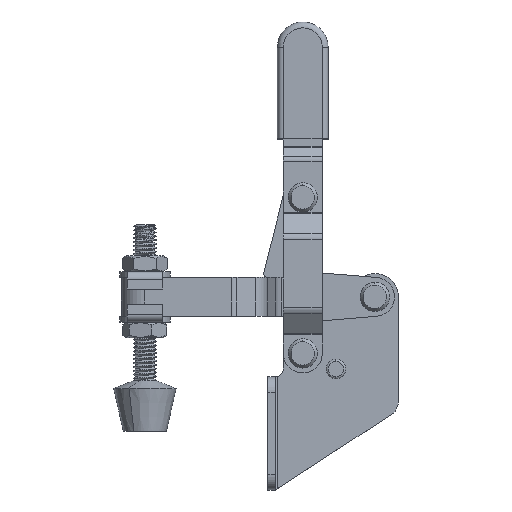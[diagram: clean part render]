
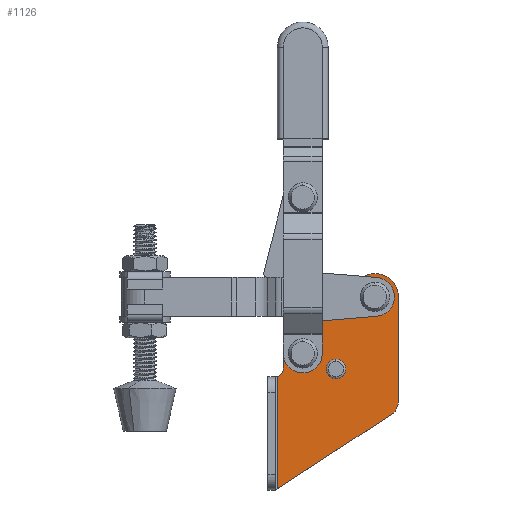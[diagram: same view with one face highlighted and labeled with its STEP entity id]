
A CAD part, top view. The second image highlights one B-rep face of the part: STEP entity #1126.
In plain terms, the highlighted planar face has unit normal (0, 0, 1) as drawn and (0, 0, -1) by its records, which use the part's own axes.
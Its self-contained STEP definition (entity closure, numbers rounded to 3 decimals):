
#263 = DIRECTION ( 'NONE',  ( 0., 0., 1. ) ) ;
#536 = DIRECTION ( 'NONE',  ( -1., 0., 0. ) ) ;
#570 = ORIENTED_EDGE ( 'NONE', *, *, #10326, .T. ) ;
#840 = ORIENTED_EDGE ( 'NONE', *, *, #10085, .F. ) ;
#868 = CARTESIAN_POINT ( 'NONE',  ( -4., -7., 0. ) ) ;
#908 = ORIENTED_EDGE ( 'NONE', *, *, #5860, .T. ) ;
#918 = DIRECTION ( 'NONE',  ( 1., 0., 0. ) ) ;
#946 = DIRECTION ( 'NONE',  ( 1., 0., 0. ) ) ;
#1119 = DIRECTION ( 'NONE',  ( 0., 0., -1. ) ) ;
#1126 = ADVANCED_FACE ( 'NONE', ( #6859, #11124, #14430, #14880 ), #8640, .F. ) ;
#1219 = AXIS2_PLACEMENT_3D ( 'NONE', #18072, #9458, #946 ) ;
#1450 = VECTOR ( 'NONE', #14480, 1000. ) ;
#1459 = CIRCLE ( 'NONE', #1852, 2.5 ) ;
#1476 = DIRECTION ( 'NONE',  ( -1., 0., 0. ) ) ;
#1503 = DIRECTION ( 'NONE',  ( -1., 0., 0. ) ) ;
#1533 = CARTESIAN_POINT ( 'NONE',  ( -14.5, 24.5, 0. ) ) ;
#1618 = CARTESIAN_POINT ( 'NONE',  ( -12.331, 24.5, 0. ) ) ;
#1648 = EDGE_CURVE ( 'NONE', #9441, #1722, #5750, .T. ) ;
#1702 = CARTESIAN_POINT ( 'NONE',  ( -12.331, 20.5, 0. ) ) ;
#1722 = VERTEX_POINT ( 'NONE', #4468 ) ;
#1852 = AXIS2_PLACEMENT_3D ( 'NONE', #18045, #9431, #918 ) ;
#2109 = ORIENTED_EDGE ( 'NONE', *, *, #4340, .F. ) ;
#2129 = LINE ( 'NONE', #11746, #13048 ) ;
#2434 = AXIS2_PLACEMENT_3D ( 'NONE', #4669, #14647, #6113 ) ;
#2620 = VERTEX_POINT ( 'NONE', #12017 ) ;
#2663 = EDGE_CURVE ( 'NONE', #5344, #14226, #2129, .T. ) ;
#2715 = LINE ( 'NONE', #2898, #13648 ) ;
#2825 = EDGE_CURVE ( 'NONE', #5955, #5344, #11299, .T. ) ;
#2898 = CARTESIAN_POINT ( 'NONE',  ( 14.5, -6.5, 0. ) ) ;
#2899 = AXIS2_PLACEMENT_3D ( 'NONE', #7636, #17667, #9064 ) ;
#2916 = AXIS2_PLACEMENT_3D ( 'NONE', #10121, #8449, #8328 ) ;
#2918 = EDGE_LOOP ( 'NONE', ( #15122, #908, #12485, #17106, #17282, #3320, #5348, #2109, #840 ) ) ;
#3058 = CARTESIAN_POINT ( 'NONE',  ( 14.5, 18.5, 0. ) ) ;
#3094 = EDGE_CURVE ( 'NONE', #2620, #5955, #5263, .T. ) ;
#3141 = DIRECTION ( 'NONE',  ( 1., 0., 0. ) ) ;
#3320 = ORIENTED_EDGE ( 'NONE', *, *, #2825, .F. ) ;
#3352 = CARTESIAN_POINT ( 'NONE',  ( 0., 0., 0. ) ) ;
#3404 = EDGE_LOOP ( 'NONE', ( #570, #8451 ) ) ;
#3972 = VERTEX_POINT ( 'NONE', #6281 ) ;
#4160 = DIRECTION ( 'NONE',  ( 0., 0., 1. ) ) ;
#4340 = EDGE_CURVE ( 'NONE', #6028, #2620, #7883, .T. ) ;
#4468 = CARTESIAN_POINT ( 'NONE',  ( -4., -5., 0. ) ) ;
#4521 = VERTEX_POINT ( 'NONE', #15992 ) ;
#4669 = CARTESIAN_POINT ( 'NONE',  ( -4., 8.5, 0. ) ) ;
#4732 = EDGE_LOOP ( 'NONE', ( #13820, #11824 ) ) ;
#4790 = DIRECTION ( 'NONE',  ( 1., 0., 0. ) ) ;
#5214 = EDGE_LOOP ( 'NONE', ( #11400, #12109 ) ) ;
#5263 = LINE ( 'NONE', #15604, #1450 ) ;
#5344 = VERTEX_POINT ( 'NONE', #13314 ) ;
#5348 = ORIENTED_EDGE ( 'NONE', *, *, #3094, .F. ) ;
#5404 = VERTEX_POINT ( 'NONE', #6285 ) ;
#5750 = CIRCLE ( 'NONE', #16959, 2. ) ;
#5860 = EDGE_CURVE ( 'NONE', #9441, #5404, #2715, .T. ) ;
#5955 = VERTEX_POINT ( 'NONE', #14491 ) ;
#6028 = VERTEX_POINT ( 'NONE', #17545 ) ;
#6113 = DIRECTION ( 'NONE',  ( 1., 0., 0. ) ) ;
#6281 = CARTESIAN_POINT ( 'NONE',  ( 2.5, 0., 0. ) ) ;
#6285 = CARTESIAN_POINT ( 'NONE',  ( -34.675, -6.5, 0. ) ) ;
#6859 = FACE_BOUND ( 'NONE', #5214, .T. ) ;
#6884 = DIRECTION ( 'NONE',  ( 1., 0., 0. ) ) ;
#6933 = EDGE_CURVE ( 'NONE', #11922, #14027, #7149, .T. ) ;
#7149 = CIRCLE ( 'NONE', #1219, 2.5 ) ;
#7364 = DIRECTION ( 'NONE',  ( 0., 0., 1. ) ) ;
#7636 = CARTESIAN_POINT ( 'NONE',  ( -4., 8.5, 0. ) ) ;
#7883 = CIRCLE ( 'NONE', #12078, 5. ) ;
#7951 = LINE ( 'NONE', #14275, #15089 ) ;
#8023 = VERTEX_POINT ( 'NONE', #14464 ) ;
#8179 = AXIS2_PLACEMENT_3D ( 'NONE', #3352, #13316, #4790 ) ;
#8239 = CIRCLE ( 'NONE', #11913, 2.5 ) ;
#8328 = DIRECTION ( 'NONE',  ( 1., 0., 0. ) ) ;
#8449 = DIRECTION ( 'NONE',  ( 0., 0., 1. ) ) ;
#8451 = ORIENTED_EDGE ( 'NONE', *, *, #17991, .T. ) ;
#8518 = LINE ( 'NONE', #1533, #12332 ) ;
#8578 = DIRECTION ( 'NONE',  ( -0.545, -0.838, 0. ) ) ;
#8640 = PLANE ( 'NONE',  #2916 ) ;
#8792 = CARTESIAN_POINT ( 'NONE',  ( 0., 0., 0. ) ) ;
#8994 = CARTESIAN_POINT ( 'NONE',  ( -1.5, 8.5, 0. ) ) ;
#9064 = DIRECTION ( 'NONE',  ( 1., 0., 0. ) ) ;
#9431 = DIRECTION ( 'NONE',  ( 0., 0., 1. ) ) ;
#9441 = VERTEX_POINT ( 'NONE', #17281 ) ;
#9458 = DIRECTION ( 'NONE',  ( 0., 0., 1. ) ) ;
#10085 = EDGE_CURVE ( 'NONE', #1722, #6028, #7951, .T. ) ;
#10098 = AXIS2_PLACEMENT_3D ( 'NONE', #1702, #11707, #3141 ) ;
#10121 = CARTESIAN_POINT ( 'NONE',  ( 14.5, 18.5, 0. ) ) ;
#10221 = DIRECTION ( 'NONE',  ( 1., 0., 0. ) ) ;
#10248 = EDGE_CURVE ( 'NONE', #18324, #15497, #17597, .T. ) ;
#10326 = EDGE_CURVE ( 'NONE', #4521, #3972, #13283, .T. ) ;
#10990 = CIRCLE ( 'NONE', #2899, 2.5 ) ;
#11124 = FACE_OUTER_BOUND ( 'NONE', #2918, .T. ) ;
#11299 = CIRCLE ( 'NONE', #12873, 6. ) ;
#11306 = CARTESIAN_POINT ( 'NONE',  ( 17., 18.5, 0. ) ) ;
#11400 = ORIENTED_EDGE ( 'NONE', *, *, #15505, .F. ) ;
#11707 = DIRECTION ( 'NONE',  ( 0., 0., -1. ) ) ;
#11746 = CARTESIAN_POINT ( 'NONE',  ( 14.5, 24.5, 0. ) ) ;
#11824 = ORIENTED_EDGE ( 'NONE', *, *, #6933, .T. ) ;
#11913 = AXIS2_PLACEMENT_3D ( 'NONE', #8792, #263, #10221 ) ;
#11922 = VERTEX_POINT ( 'NONE', #11306 ) ;
#12017 = CARTESIAN_POINT ( 'NONE',  ( 3.8, -3.249, 0. ) ) ;
#12078 = AXIS2_PLACEMENT_3D ( 'NONE', #12696, #4160, #14118 ) ;
#12109 = ORIENTED_EDGE ( 'NONE', *, *, #10248, .F. ) ;
#12332 = VECTOR ( 'NONE', #8578, 1000. ) ;
#12359 = EDGE_CURVE ( 'NONE', #14027, #11922, #1459, .T. ) ;
#12485 = ORIENTED_EDGE ( 'NONE', *, *, #15324, .F. ) ;
#12614 = CIRCLE ( 'NONE', #10098, 4. ) ;
#12696 = CARTESIAN_POINT ( 'NONE',  ( 0., 0., 0. ) ) ;
#12770 = EDGE_CURVE ( 'NONE', #8023, #14226, #12614, .T. ) ;
#12873 = AXIS2_PLACEMENT_3D ( 'NONE', #3058, #7364, #6884 ) ;
#13048 = VECTOR ( 'NONE', #536, 1000. ) ;
#13283 = CIRCLE ( 'NONE', #8179, 2.5 ) ;
#13314 = CARTESIAN_POINT ( 'NONE',  ( 14.5, 24.5, 0. ) ) ;
#13316 = DIRECTION ( 'NONE',  ( 0., 0., 1. ) ) ;
#13648 = VECTOR ( 'NONE', #1476, 1000. ) ;
#13820 = ORIENTED_EDGE ( 'NONE', *, *, #12359, .T. ) ;
#14027 = VERTEX_POINT ( 'NONE', #14162 ) ;
#14118 = DIRECTION ( 'NONE',  ( 1., 0., 0. ) ) ;
#14162 = CARTESIAN_POINT ( 'NONE',  ( 12., 18.5, 0. ) ) ;
#14226 = VERTEX_POINT ( 'NONE', #1618 ) ;
#14275 = CARTESIAN_POINT ( 'NONE',  ( -4., -5., 0. ) ) ;
#14430 = FACE_BOUND ( 'NONE', #3404, .T. ) ;
#14464 = CARTESIAN_POINT ( 'NONE',  ( -15.683, 22.682, 0. ) ) ;
#14480 = DIRECTION ( 'NONE',  ( 0.65, 0.76, 0. ) ) ;
#14491 = CARTESIAN_POINT ( 'NONE',  ( 19.061, 14.601, 0. ) ) ;
#14647 = DIRECTION ( 'NONE',  ( 0., 0., -1. ) ) ;
#14880 = FACE_BOUND ( 'NONE', #4732, .T. ) ;
#15089 = VECTOR ( 'NONE', #15642, 1000. ) ;
#15122 = ORIENTED_EDGE ( 'NONE', *, *, #1648, .F. ) ;
#15219 = CARTESIAN_POINT ( 'NONE',  ( -6.5, 8.5, 0. ) ) ;
#15324 = EDGE_CURVE ( 'NONE', #8023, #5404, #8518, .T. ) ;
#15497 = VERTEX_POINT ( 'NONE', #8994 ) ;
#15505 = EDGE_CURVE ( 'NONE', #15497, #18324, #10990, .T. ) ;
#15604 = CARTESIAN_POINT ( 'NONE',  ( 3.8, -3.249, 0. ) ) ;
#15642 = DIRECTION ( 'NONE',  ( 1., 0., 0. ) ) ;
#15992 = CARTESIAN_POINT ( 'NONE',  ( -2.5, 0., 0. ) ) ;
#16959 = AXIS2_PLACEMENT_3D ( 'NONE', #868, #1119, #1503 ) ;
#17106 = ORIENTED_EDGE ( 'NONE', *, *, #12770, .T. ) ;
#17281 = CARTESIAN_POINT ( 'NONE',  ( -5.936, -6.5, 0. ) ) ;
#17282 = ORIENTED_EDGE ( 'NONE', *, *, #2663, .F. ) ;
#17545 = CARTESIAN_POINT ( 'NONE',  ( 0., -5., 0. ) ) ;
#17597 = CIRCLE ( 'NONE', #2434, 2.5 ) ;
#17667 = DIRECTION ( 'NONE',  ( 0., 0., -1. ) ) ;
#17991 = EDGE_CURVE ( 'NONE', #3972, #4521, #8239, .T. ) ;
#18045 = CARTESIAN_POINT ( 'NONE',  ( 14.5, 18.5, 0. ) ) ;
#18072 = CARTESIAN_POINT ( 'NONE',  ( 14.5, 18.5, 0. ) ) ;
#18324 = VERTEX_POINT ( 'NONE', #15219 ) ;
